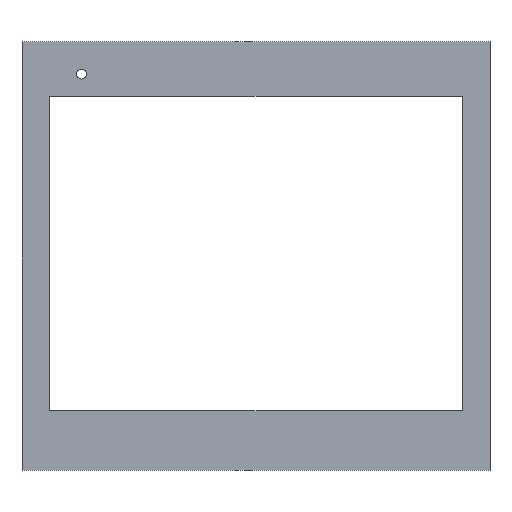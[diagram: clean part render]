
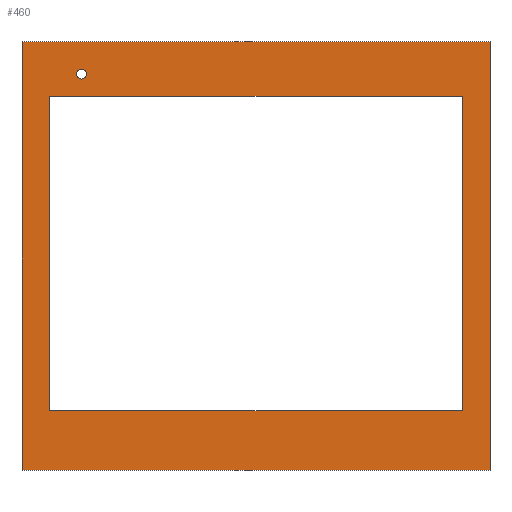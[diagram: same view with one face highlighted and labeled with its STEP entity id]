
A CAD part, top view. The second image highlights one B-rep face of the part: STEP entity #460.
In plain terms, the highlighted planar face has unit normal (0, 0, 1).
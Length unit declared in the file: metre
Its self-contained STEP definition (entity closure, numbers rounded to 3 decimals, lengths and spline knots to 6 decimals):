
#12=CIRCLE('',#496,0.001);
#49=ORIENTED_EDGE('',*,*,#151,.T.);
#50=ORIENTED_EDGE('',*,*,#155,.T.);
#51=ORIENTED_EDGE('',*,*,#158,.F.);
#52=ORIENTED_EDGE('',*,*,#162,.F.);
#53=ORIENTED_EDGE('',*,*,#159,.F.);
#54=ORIENTED_EDGE('',*,*,#141,.F.);
#55=ORIENTED_EDGE('',*,*,#145,.T.);
#56=ORIENTED_EDGE('',*,*,#148,.T.);
#57=ORIENTED_EDGE('',*,*,#164,.F.);
#141=EDGE_CURVE('',#203,#204,#245,.T.);
#145=EDGE_CURVE('',#203,#206,#249,.T.);
#148=EDGE_CURVE('',#206,#208,#252,.T.);
#151=EDGE_CURVE('',#212,#211,#255,.T.);
#155=EDGE_CURVE('',#211,#214,#259,.T.);
#158=EDGE_CURVE('',#216,#214,#262,.T.);
#159=EDGE_CURVE('',#217,#217,#12,.T.);
#162=EDGE_CURVE('',#212,#216,#264,.T.);
#164=EDGE_CURVE('',#204,#208,#266,.T.);
#203=VERTEX_POINT('',#638);
#204=VERTEX_POINT('',#640);
#206=VERTEX_POINT('',#646);
#208=VERTEX_POINT('',#652);
#211=VERTEX_POINT('',#659);
#212=VERTEX_POINT('',#661);
#214=VERTEX_POINT('',#667);
#216=VERTEX_POINT('',#673);
#217=VERTEX_POINT('',#677);
#245=LINE('',#639,#305);
#249=LINE('',#647,#309);
#252=LINE('',#653,#312);
#255=LINE('',#660,#315);
#259=LINE('',#668,#319);
#262=LINE('',#674,#322);
#264=LINE('',#682,#324);
#266=LINE('',#685,#326);
#305=VECTOR('',#522,1.);
#309=VECTOR('',#528,1.);
#312=VECTOR('',#533,1.);
#315=VECTOR('',#538,1.);
#319=VECTOR('',#544,1.);
#322=VECTOR('',#549,1.);
#324=VECTOR('',#559,1.);
#326=VECTOR('',#563,1.);
#373=EDGE_LOOP('',(#49,#50,#51,#52));
#374=EDGE_LOOP('',(#53));
#375=EDGE_LOOP('',(#54,#55,#56,#57));
#405=FACE_BOUND('',#373,.T.);
#406=FACE_BOUND('',#374,.T.);
#407=FACE_BOUND('',#375,.T.);
#435=PLANE('',#500);
#460=ADVANCED_FACE('',(#405,#406,#407),#435,.T.);
#496=AXIS2_PLACEMENT_3D('',#676,#552,#553);
#500=AXIS2_PLACEMENT_3D('',#686,#564,#565);
#522=DIRECTION('',(-1.,0.,0.));
#528=DIRECTION('',(0.,-1.,0.));
#533=DIRECTION('',(-1.,0.,0.));
#538=DIRECTION('',(0.,-1.,0.));
#544=DIRECTION('',(1.,0.,0.));
#549=DIRECTION('',(0.,-1.,0.));
#552=DIRECTION('',(0.,0.,1.));
#553=DIRECTION('',(1.,0.,0.));
#559=DIRECTION('',(1.,0.,0.));
#563=DIRECTION('',(0.,-1.,0.));
#564=DIRECTION('',(0.,0.,1.));
#565=DIRECTION('',(1.,0.,0.));
#638=CARTESIAN_POINT('',(0.042,0.0965,0.001));
#639=CARTESIAN_POINT('',(0.,0.0965,0.001));
#640=CARTESIAN_POINT('',(-0.042,0.0965,0.001));
#646=CARTESIAN_POINT('',(0.042,0.0325,0.001));
#647=CARTESIAN_POINT('',(0.042,0.0645,0.001));
#652=CARTESIAN_POINT('',(-0.042,0.0325,0.001));
#653=CARTESIAN_POINT('',(0.,0.0325,0.001));
#659=CARTESIAN_POINT('',(-0.0476,0.0204,0.001));
#660=CARTESIAN_POINT('',(-0.0476,0.061,0.001));
#661=CARTESIAN_POINT('',(-0.0476,0.1076,0.001));
#667=CARTESIAN_POINT('',(0.0476,0.0204,0.001));
#668=CARTESIAN_POINT('',(-0.044774,0.0204,0.001));
#673=CARTESIAN_POINT('',(0.0476,0.1076,0.001));
#674=CARTESIAN_POINT('',(0.0476,0.0285,0.001));
#676=CARTESIAN_POINT('',(-0.0355,0.100996,0.001));
#677=CARTESIAN_POINT('',(-0.0345,0.100996,0.001));
#682=CARTESIAN_POINT('',(0.0445,0.1076,0.001));
#685=CARTESIAN_POINT('',(-0.042,0.0645,0.001));
#686=CARTESIAN_POINT('',(0.,0.162,0.001));
